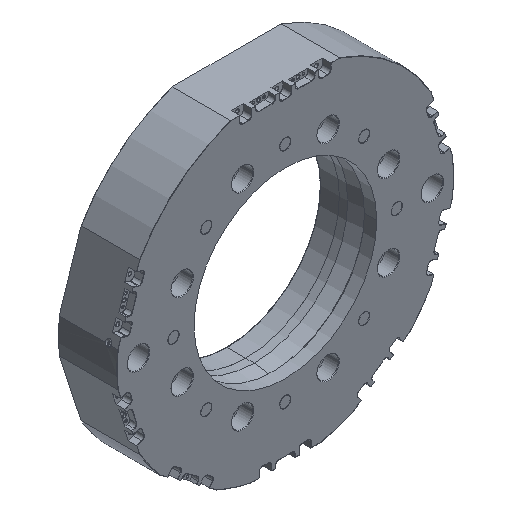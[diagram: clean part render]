
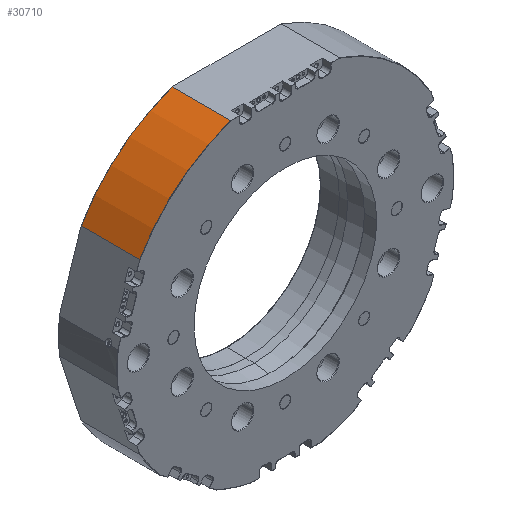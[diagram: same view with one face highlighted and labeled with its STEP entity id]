
A CAD part, isometric view. The second image highlights one B-rep face of the part: STEP entity #30710.
In plain terms, the highlighted cylindrical face has radius 157.5 mm (diameter 315 mm), a partial arc.
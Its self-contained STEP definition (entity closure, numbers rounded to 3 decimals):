
#1537 = DIRECTION ( 'NONE',  ( 0., -1., 0. ) ) ;
#2053 = AXIS2_PLACEMENT_3D ( 'NONE', #3225, #6231, #8773 ) ;
#2713 = CIRCLE ( 'NONE', #23074, 157.5 ) ;
#3088 = VECTOR ( 'NONE', #15509, 1000. ) ;
#3225 = CARTESIAN_POINT ( 'NONE',  ( 0., -54.8, 0. ) ) ;
#3893 = AXIS2_PLACEMENT_3D ( 'NONE', #6006, #8656, #17192 ) ;
#5643 = EDGE_CURVE ( 'NONE', #10084, #7922, #12241, .T. ) ;
#6006 = CARTESIAN_POINT ( 'NONE',  ( 0., 0., 0. ) ) ;
#6231 = DIRECTION ( 'NONE',  ( 0., 1., 0. ) ) ;
#6767 = DIRECTION ( 'NONE',  ( 0., 0., 1. ) ) ;
#7800 = EDGE_CURVE ( 'NONE', #22527, #32462, #2713, .T. ) ;
#7922 = VERTEX_POINT ( 'NONE', #32300 ) ;
#8656 = DIRECTION ( 'NONE',  ( 0., 1., 0. ) ) ;
#8773 = DIRECTION ( 'NONE',  ( 0., 0., -1. ) ) ;
#9323 = ORIENTED_EDGE ( 'NONE', *, *, #7800, .T. ) ;
#10084 = VERTEX_POINT ( 'NONE', #14379 ) ;
#11833 = CARTESIAN_POINT ( 'NONE',  ( -136.259, -0.2, 78.991 ) ) ;
#11910 = ORIENTED_EDGE ( 'NONE', *, *, #5643, .T. ) ;
#12241 = CIRCLE ( 'NONE', #2053, 157.5 ) ;
#12251 = CARTESIAN_POINT ( 'NONE',  ( 0., -0.2, 0. ) ) ;
#12706 = CARTESIAN_POINT ( 'NONE',  ( -136.259, 0., 78.991 ) ) ;
#12900 = CYLINDRICAL_SURFACE ( 'NONE', #3893, 157.5 ) ;
#14379 = CARTESIAN_POINT ( 'NONE',  ( -136.259, -54.8, 78.991 ) ) ;
#15509 = DIRECTION ( 'NONE',  ( 0., -1., 0. ) ) ;
#17192 = DIRECTION ( 'NONE',  ( 0., 0., 1. ) ) ;
#18578 = FACE_OUTER_BOUND ( 'NONE', #20834, .T. ) ;
#18757 = CARTESIAN_POINT ( 'NONE',  ( -51.042, -0.2, 149. ) ) ;
#20132 = ORIENTED_EDGE ( 'NONE', *, *, #34820, .T. ) ;
#20834 = EDGE_LOOP ( 'NONE', ( #20132, #11910, #26593, #9323 ) ) ;
#22527 = VERTEX_POINT ( 'NONE', #18757 ) ;
#22608 = LINE ( 'NONE', #34546, #35162 ) ;
#23074 = AXIS2_PLACEMENT_3D ( 'NONE', #12251, #23438, #6767 ) ;
#23438 = DIRECTION ( 'NONE',  ( 0., -1., 0. ) ) ;
#26593 = ORIENTED_EDGE ( 'NONE', *, *, #35434, .F. ) ;
#27880 = LINE ( 'NONE', #12706, #3088 ) ;
#30710 = ADVANCED_FACE ( 'NONE', ( #18578 ), #12900, .T. ) ;
#32300 = CARTESIAN_POINT ( 'NONE',  ( -51.042, -54.8, 149. ) ) ;
#32462 = VERTEX_POINT ( 'NONE', #11833 ) ;
#34546 = CARTESIAN_POINT ( 'NONE',  ( -51.042, 0., 149. ) ) ;
#34820 = EDGE_CURVE ( 'NONE', #32462, #10084, #27880, .T. ) ;
#35162 = VECTOR ( 'NONE', #1537, 1000. ) ;
#35434 = EDGE_CURVE ( 'NONE', #22527, #7922, #22608, .T. ) ;
